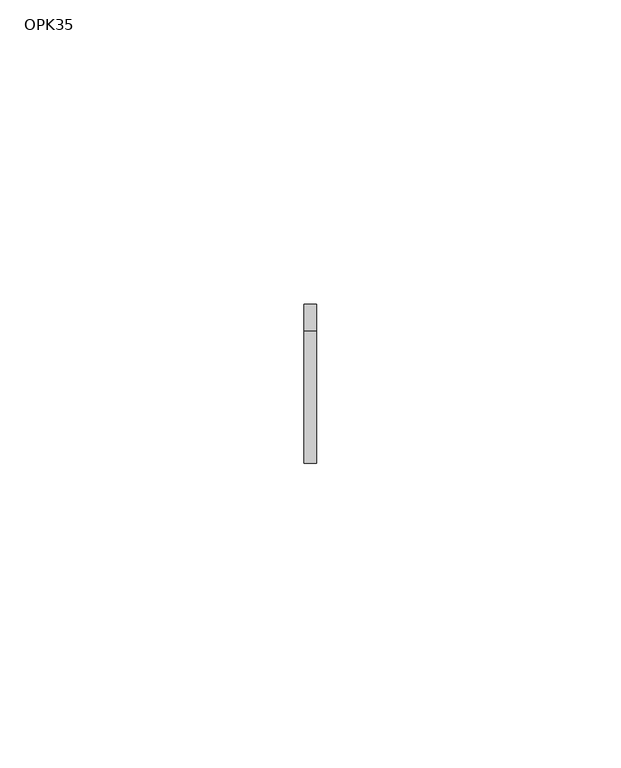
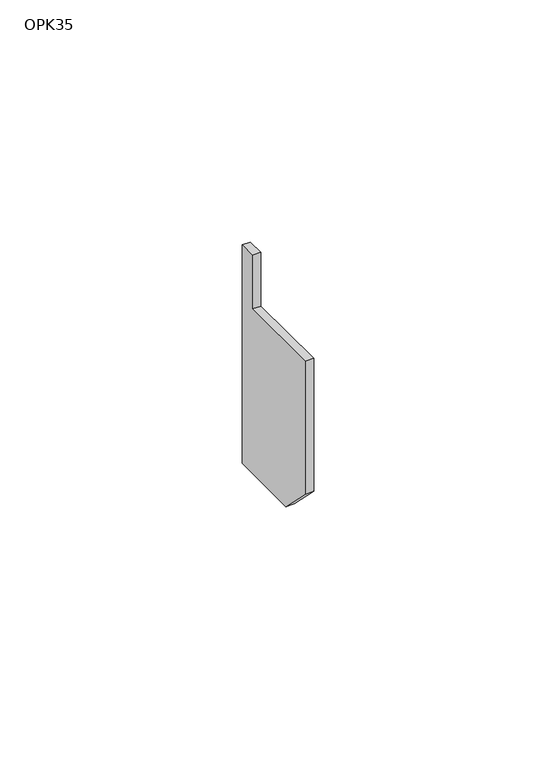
"""IFC4 building model written with IfcOpenShell, lengths in millimetres: proxy geometry, Odbojnik - OPK35 : OPK35."""

import ifcopenshell
import ifcopenshell.guid

model = None  # the IFC model being written
_history = None  # IfcOwnerHistory: only IFC2X3 demands one
_inside = {}  # id of a spatial element -> (the spatial element, [elements in it])
_under = {}  # id of a project, library or spatial element -> (it, [spatial elements below it])
_declared = {}  # id of a project -> (the project, [libraries it declares])
_typed = {}  # id of a type object -> (the type object, [elements of that type])
_made_of = {}  # id of a material, layer set ... -> (it, [elements and type objects made of it])


def new_model(schema):
    """Start an empty IFC model of exactly this schema.

    Asked for "IFC4X3", IfcOpenShell would pick the latest addendum, in which some entities
    have other attributes; the version numbers below select the first issue.
    IFC2X3 requires an IfcOwnerHistory on every rooted entity: one is made here for all.
    """
    global model, _history
    if schema == "IFC4X3":
        model = ifcopenshell.file(schema_version=(4, 3, 0, 0))
    else:
        model = ifcopenshell.file(schema=schema)
    _inside.clear()
    _under.clear()
    _declared.clear()
    _typed.clear()
    _made_of.clear()
    _history = None
    if model.schema == "IFC2X3":
        org = make("IfcOrganization", Name="unknown")
        user = make(
            "IfcPersonAndOrganization",
            ThePerson=make("IfcPerson", FamilyName="unknown"),
            TheOrganization=org,
        )
        app = make(
            "IfcApplication",
            ApplicationDeveloper=org,
            Version="unknown",
            ApplicationFullName="unknown",
            ApplicationIdentifier="unknown",
        )
        _history = make(
            "IfcOwnerHistory",
            OwningUser=user,
            OwningApplication=app,
            ChangeAction="ADDED",
            CreationDate=0,
        )
    return model


def make(cls, **values):
    """One entity of the class cls with the attributes given. An attribute that is None is left unset."""
    return model.create_entity(
        cls, **{name: value for name, value in values.items() if value is not None}
    )


def rooted(cls, **values):
    """An entity with a GlobalId (a new one), such as an element, a storey or a relation."""
    return make(cls, GlobalId=ifcopenshell.guid.new(), OwnerHistory=_history, **values)


def si_unit(unit_type, name, prefix=None):
    """IfcSIUnit, for example si_unit("LENGTHUNIT", "METRE", prefix="MILLI")."""
    return make("IfcSIUnit", UnitType=unit_type, Prefix=prefix, Name=name)


def assignment(units):
    """IfcUnitAssignment: the units of a project."""
    return None if units is None else make("IfcUnitAssignment", Units=units)


def point(xyz):
    """IfcCartesianPoint."""
    return None if xyz is None else make("IfcCartesianPoint", Coordinates=xyz)


def direction(xyz):
    """IfcDirection."""
    return None if xyz is None else make("IfcDirection", DirectionRatios=xyz)


def frame(location, z_axis=None, x_axis=None):
    """IfcAxis2Placement3D, a coordinate frame: its origin and axes. An axis left out is left unset."""
    return make(
        "IfcAxis2Placement3D",
        Location=point(location),
        Axis=direction(z_axis),
        RefDirection=direction(x_axis),
    )


def origin():
    """The frame at (0, 0, 0) with its axes left unset."""
    return frame((0.0, 0.0, 0.0))


def place(relative_to, where):
    """IfcLocalPlacement: puts the frame where relative to a parent placement (None: the world)."""
    return make(
        "IfcLocalPlacement", PlacementRelTo=relative_to, RelativePlacement=where
    )


def context(
    kind, dimensions, precision=None, world=None, true_north=None, identifier=None
):
    """IfcGeometricRepresentationContext, for example the 3D "Model" context."""
    return make(
        "IfcGeometricRepresentationContext",
        ContextIdentifier=identifier,
        ContextType=kind,
        CoordinateSpaceDimension=dimensions,
        Precision=precision,
        WorldCoordinateSystem=world,
        TrueNorth=true_north,
    )


def project(units=None, contexts=None):
    """IfcProject with its units and contexts."""
    return rooted(
        "IfcProject",
        Name="project",
        RepresentationContexts=contexts,
        UnitsInContext=assignment(units),
    )


def spatial(cls, under=None, at=None, **own):
    """A site, building, storey or space (cls), placed at a placement, below another one or the project."""
    s = rooted(cls, ObjectPlacement=at, **own)
    if under is not None:
        _under.setdefault(under.id(), (under, []))[1].append(s)
    return s


def polyline(points):
    """IfcPolyline through the points."""
    return make("IfcPolyline", Points=[point(p) for p in points])


def outline(outer, holes=None, kind="AREA"):
    """IfcArbitraryClosedProfileDef: a profile drawn as a closed curve; with holes, ...WithVoids."""
    if holes is None:
        return make("IfcArbitraryClosedProfileDef", ProfileType=kind, OuterCurve=outer)
    return make(
        "IfcArbitraryProfileDefWithVoids",
        ProfileType=kind,
        OuterCurve=outer,
        InnerCurves=holes,
    )


def extrude(swept, where, along, depth):
    """IfcExtrudedAreaSolid: the profile swept, set in the frame where, extruded along a direction by depth."""
    return make(
        "IfcExtrudedAreaSolid",
        SweptArea=swept,
        Position=where,
        ExtrudedDirection=direction(along),
        Depth=depth,
    )


def shape(context_of_items, identifier, shape_type, items):
    """IfcShapeRepresentation: the items that make up one representation, for example the "Body"."""
    return make(
        "IfcShapeRepresentation",
        ContextOfItems=context_of_items,
        RepresentationIdentifier=identifier,
        RepresentationType=shape_type,
        Items=items,
    )


def source(mapping_origin, context_of_items, identifier, shape_type, items):
    """IfcRepresentationMap: a shape defined once, which mapped items show again and again."""
    return make(
        "IfcRepresentationMap",
        MappingOrigin=mapping_origin,
        MappedRepresentation=shape(context_of_items, identifier, shape_type, items),
    )


def transform(
    local_origin,
    x_axis=None,
    y_axis=None,
    z_axis=None,
    scale=None,
    scale2=None,
    scale3=None,
    uniform=True,
):
    """IfcCartesianTransformationOperator3D, or its non-uniform kind. x_axis, y_axis, z_axis: its Axis1, 2, 3."""
    if uniform:
        return make(
            "IfcCartesianTransformationOperator3D",
            Axis1=direction(x_axis),
            Axis2=direction(y_axis),
            LocalOrigin=point(local_origin),
            Scale=scale,
            Axis3=direction(z_axis),
        )
    return make(
        "IfcCartesianTransformationOperator3DnonUniform",
        Axis1=direction(x_axis),
        Axis2=direction(y_axis),
        LocalOrigin=point(local_origin),
        Scale=scale,
        Axis3=direction(z_axis),
        Scale2=scale2,
        Scale3=scale3,
    )


def mapped(mapping_source, mapping_target):
    """IfcMappedItem: shows the shape of a source again, moved by a transform."""
    return make(
        "IfcMappedItem", MappingSource=mapping_source, MappingTarget=mapping_target
    )


def made_of(thing, what):
    """Note that an element or type object is made of a material, layer set ...; save() writes the relation."""
    if what is not None:
        _made_of.setdefault(what.id(), (what, []))[1].append(thing)
    return thing


def element(
    cls,
    number,
    at=None,
    inside=None,
    cuts=None,
    type_object=None,
    material=None,
    context=None,
    identifier="Body",
    shape_type=None,
    held_by="IfcProductDefinitionShape",
    body=None,
    shapes=None,
    **own,
):
    """One element of the class cls, such as IfcWall. Its Tag is "e" and its number.

    at: its placement. inside: the storey or other place that contains it. cuts: it is an
    opening in that element (IfcRelVoidsElement). A single representation is given by context,
    identifier, shape_type and body (its items); several are given by shapes. held_by: the class
    of the entity that holds the representations. save() writes the other relations.
    """
    e = rooted(cls, Tag="e%d" % number, ObjectPlacement=at, **own)
    if body is not None:
        shapes = [shape(context, identifier, shape_type, body)]
    if shapes is not None:
        e.Representation = make(held_by, Representations=shapes)
    if inside is not None:
        _inside.setdefault(inside.id(), (inside, []))[1].append(e)
    if cuts is not None:
        rooted(
            "IfcRelVoidsElement", RelatingBuildingElement=cuts, RelatedOpeningElement=e
        )
    if type_object is not None:
        _typed.setdefault(type_object.id(), (type_object, []))[1].append(e)
    return made_of(e, material)


def aggregate(whole, parts):
    """IfcRelAggregates: a whole, such as a stair, and the parts it consists of."""
    return rooted("IfcRelAggregates", RelatingObject=whole, RelatedObjects=parts)


def save(model, path):
    """Write the relations noted so far, then the file.

    IfcRelAggregates (storeys below a building ...), IfcRelContainedInSpatialStructure (elements
    in a storey), IfcRelDefinesByType, IfcRelAssociatesMaterial and IfcRelDeclares: one each for
    every whole, place, type object, material and project.
    """
    for whole, parts in _under.values():
        aggregate(whole, parts)
    for where, things in _inside.values():
        rooted(
            "IfcRelContainedInSpatialStructure",
            RelatedElements=things,
            RelatingStructure=where,
        )
    for kind, things in _typed.values():
        rooted("IfcRelDefinesByType", RelatedObjects=things, RelatingType=kind)
    for what, things in _made_of.values():
        rooted("IfcRelAssociatesMaterial", RelatedObjects=things, RelatingMaterial=what)
    for by, libraries in _declared.values():
        rooted("IfcRelDeclares", RelatingContext=by, RelatedDefinitions=libraries)
    model.write(path)


def opk35_ea140d36(model_context):
    return source(origin(), model_context, "Body", "SweptSolid", [
        extrude(outline(polyline([(4.519086, 4.4983909), (4.519086, 18.0409732), (8.8190858, 18.0409732), (8.8190858, 4.4983909), (8.8190858, -37.055161), (-9.2809171, -37.055161), (-17.2809141, -29.055164), (-17.2809141, 4.4983909), (4.519086, 4.4983909)])), frame((-3.0, 0.0, 0.0), z_axis=(1.0, 0.0, 0.0), x_axis=(0.0, 1.0, 0.0)), (0.0, 0.0, 1.0), 2.0),
    ])


if __name__ == "__main__":
    model = new_model("IFC4")
    model_context = context("Model", 3, world=origin())
    ifc_project = project(units=[si_unit("LENGTHUNIT", "METRE", prefix="MILLI")], contexts=[model_context])
    site = spatial("IfcSite", under=ifc_project)
    building = spatial("IfcBuilding", under=site)
    placement = place(None, origin())
    opk35_shape = opk35_ea140d36(model_context)
    element("IfcBuildingElementProxy", 1, Name="Odbojnik - OPK35 : OPK35", ObjectType="Odbojnik - OPK35 : OPK35", at=placement, inside=building, context=model_context, shape_type="MappedRepresentation", body=[
        mapped(opk35_shape, transform((0.0, 0.0, 0.0), x_axis=(1.0, 0.0, 0.0), y_axis=(0.0, 1.0, 0.0), z_axis=(0.0, 0.0, 1.0))),
    ])
    save(model, "model.ifc")
